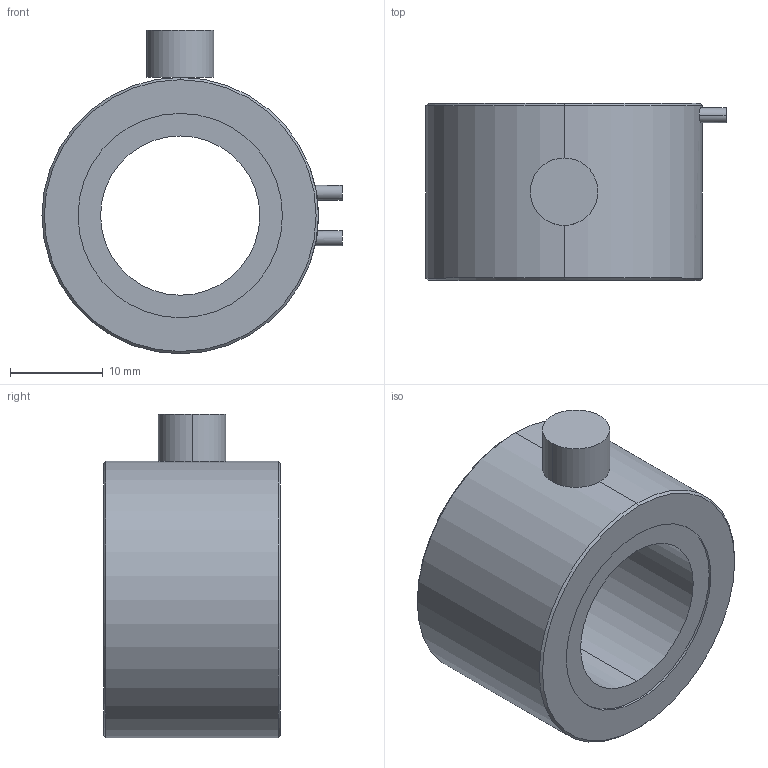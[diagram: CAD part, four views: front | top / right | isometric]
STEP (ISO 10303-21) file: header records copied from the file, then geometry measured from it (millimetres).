
FILE_DESCRIPTION (( 'STEP AP214' ), '1' );
FILE_NAME ('FINAL ASBY SS1747-1KLB.STEP', '2024-08-12T14:53:22', ( '' ), ( '' ), 'SwSTEP 2.0', 'SolidWorks 2008', '' );
FILE_SCHEMA (( 'AUTOMOTIVE_DESIGN' ));
Length unit declared in the file: inch
Products named in the file (1): FINAL ASBY SS1747-1KLB
Bounding box: 32.31 x 19.05 x 34.85 mm (x, y, z)
Volume: 8998.3 mm3; surface area: 3933.7 mm2
Topology: 2 solids, 2 shells, 26 faces, 50 edges, 32 vertices
Faces by surface type: cylinder 12, plane 8, cone 6
Entity records: 762 total; most frequent: CARTESIAN_POINT 167, DIRECTION 128, ORIENTED_EDGE 100, AXIS2_PLACEMENT_3D 55, EDGE_CURVE 50, EDGE_LOOP 32, VERTEX_POINT 32, CIRCLE 28
